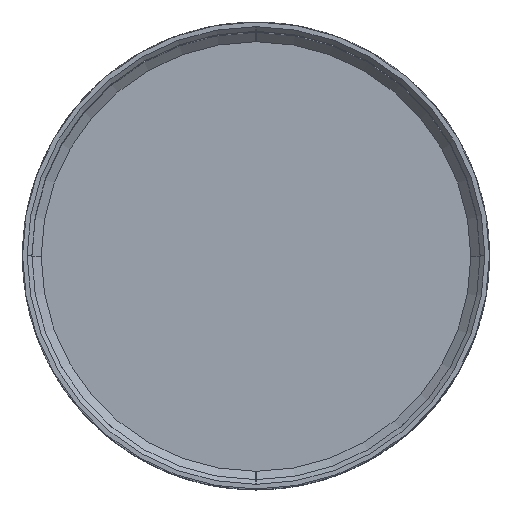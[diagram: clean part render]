
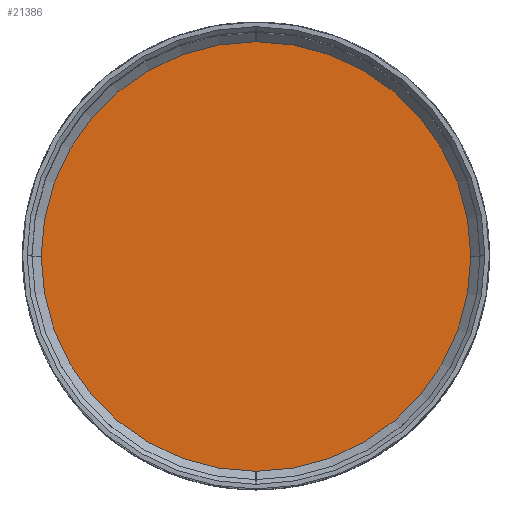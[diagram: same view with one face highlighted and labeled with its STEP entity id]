
A CAD part, top view. The second image highlights one B-rep face of the part: STEP entity #21386.
In plain terms, the highlighted planar face has unit normal (0, 0, 1).
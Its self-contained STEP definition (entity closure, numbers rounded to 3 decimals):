
#4182=CIRCLE('',#22035,45.99);
#4184=CIRCLE('',#22039,45.99);
#4186=CIRCLE('',#22043,45.99);
#4188=CIRCLE('',#22047,45.99);
#4262=FACE_OUTER_BOUND('',#5145,.T.);
#5145=EDGE_LOOP('',(#14998,#14999,#15000,#15001,#15002,#15003,#15004,#15005));
#6494=LINE('',#25318,#7248);
#6499=LINE('',#25332,#7253);
#6503=LINE('',#25344,#7257);
#6507=LINE('',#25356,#7261);
#7248=VECTOR('',#22879,10.);
#7253=VECTOR('',#22892,10.);
#7257=VECTOR('',#22904,10.);
#7261=VECTOR('',#22916,10.);
#8002=VERTEX_POINT('',#25315);
#8003=VERTEX_POINT('',#25317);
#8006=VERTEX_POINT('',#25324);
#8008=VERTEX_POINT('',#25330);
#8010=VERTEX_POINT('',#25336);
#8012=VERTEX_POINT('',#25342);
#8014=VERTEX_POINT('',#25348);
#8016=VERTEX_POINT('',#25354);
#10774=EDGE_CURVE('',#8002,#8003,#6494,.T.);
#10778=EDGE_CURVE('',#8006,#8002,#4182,.T.);
#10781=EDGE_CURVE('',#8008,#8006,#6499,.T.);
#10784=EDGE_CURVE('',#8010,#8008,#4184,.T.);
#10787=EDGE_CURVE('',#8012,#8010,#6503,.T.);
#10790=EDGE_CURVE('',#8014,#8012,#4186,.T.);
#10793=EDGE_CURVE('',#8016,#8014,#6507,.T.);
#10795=EDGE_CURVE('',#8003,#8016,#4188,.T.);
#14998=ORIENTED_EDGE('',*,*,#10774,.F.);
#14999=ORIENTED_EDGE('',*,*,#10778,.F.);
#15000=ORIENTED_EDGE('',*,*,#10781,.F.);
#15001=ORIENTED_EDGE('',*,*,#10784,.F.);
#15002=ORIENTED_EDGE('',*,*,#10787,.F.);
#15003=ORIENTED_EDGE('',*,*,#10790,.F.);
#15004=ORIENTED_EDGE('',*,*,#10793,.F.);
#15005=ORIENTED_EDGE('',*,*,#10795,.F.);
#21273=PLANE('',#22057);
#21386=ADVANCED_FACE('',(#4262),#21273,.T.);
#22035=AXIS2_PLACEMENT_3D('',#25326,#22885,#22886);
#22039=AXIS2_PLACEMENT_3D('',#25338,#22897,#22898);
#22043=AXIS2_PLACEMENT_3D('',#25350,#22909,#22910);
#22047=AXIS2_PLACEMENT_3D('',#25359,#22920,#22921);
#22057=AXIS2_PLACEMENT_3D('',#37682,#22987,#22988);
#22879=DIRECTION('',(1.,0.,0.));
#22885=DIRECTION('center_axis',(0.,0.,-1.));
#22886=DIRECTION('ref_axis',(0.,1.,0.));
#22892=DIRECTION('',(0.,1.,0.));
#22897=DIRECTION('center_axis',(0.,0.,-1.));
#22898=DIRECTION('ref_axis',(-1.,0.,0.));
#22904=DIRECTION('',(-1.,0.,0.));
#22909=DIRECTION('center_axis',(0.,0.,-1.));
#22910=DIRECTION('ref_axis',(0.,-1.,0.));
#22916=DIRECTION('',(0.,-1.,0.));
#22920=DIRECTION('center_axis',(0.,0.,-1.));
#22921=DIRECTION('ref_axis',(1.,0.,0.));
#22987=DIRECTION('center_axis',(0.,0.,1.));
#22988=DIRECTION('ref_axis',(1.,0.,0.));
#25315=CARTESIAN_POINT('',(-0.01,46.,2.));
#25317=CARTESIAN_POINT('',(0.01,46.,2.));
#25318=CARTESIAN_POINT('',(0.005,46.,2.));
#25324=CARTESIAN_POINT('',(-46.,0.01,2.));
#25326=CARTESIAN_POINT('Origin',(-0.01,0.01,
2.));
#25330=CARTESIAN_POINT('',(-46.,-0.01,2.));
#25332=CARTESIAN_POINT('',(-46.,0.005,2.));
#25336=CARTESIAN_POINT('',(-0.01,-46.,2.));
#25338=CARTESIAN_POINT('Origin',(-0.01,-0.01,
2.));
#25342=CARTESIAN_POINT('',(0.01,-46.,2.));
#25344=CARTESIAN_POINT('',(-0.005,-46.,2.));
#25348=CARTESIAN_POINT('',(46.,-0.01,2.));
#25350=CARTESIAN_POINT('Origin',(0.01,-0.01,
2.));
#25354=CARTESIAN_POINT('',(46.,0.01,2.));
#25356=CARTESIAN_POINT('',(46.,-0.005,2.));
#25359=CARTESIAN_POINT('Origin',(0.01,0.01,
2.));
#37682=CARTESIAN_POINT('Origin',(0.,0.,
2.));
